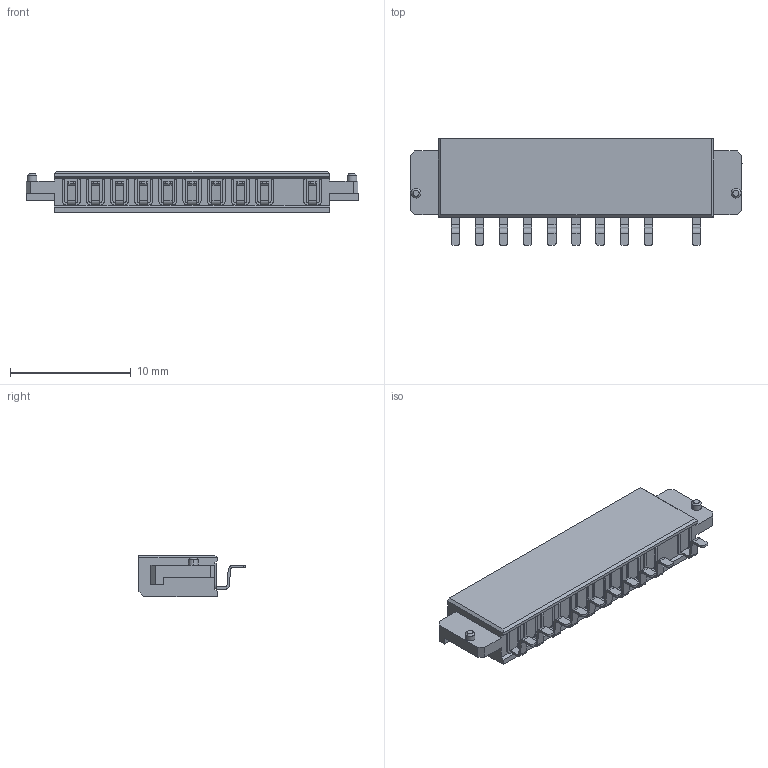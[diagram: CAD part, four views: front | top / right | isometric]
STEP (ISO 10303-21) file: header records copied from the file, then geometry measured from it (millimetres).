
FILE_DESCRIPTION(('Creo Elements/Direct Modeling STEP Export'),'2;1');
FILE_NAME('P39666_GF31-10-1F.stp','2023-02-28T18:20:50',(''),(''),'Creo Elements/Direct Modeling STEP processor for AP214 (Solid Model)','Creo Elements/Direct Modeling 20.4A 18-Oct-2021 (C) Parametric Technology GmbH','');
FILE_SCHEMA(('AUTOMOTIVE_DESIGN { 1 0 10303 214 1 1 1 1 }'));
Length unit declared in the file: millimetre
Products named in the file (2): GF31-10-1F
Assembly tree (1 placements, depth 2):
  GF31-10-1F
    GF31-10-1F
Bounding box: 27.5 x 8.8 x 3.4 mm (x, y, z)
Volume: 430.4 mm3; surface area: 823.4 mm2
Topology: 1 solids, 1 shells, 453 faces, 1211 edges, 762 vertices
Faces by surface type: plane 345, cylinder 104, cone 4
Entity records: 13783 total; most frequent: ORIENTED_EDGE 2422, CARTESIAN_POINT 2403, DIRECTION 2297, EDGE_CURVE 1211, VECTOR 985, LINE 985, VERTEX_POINT 762, AXIS2_PLACEMENT_3D 656
